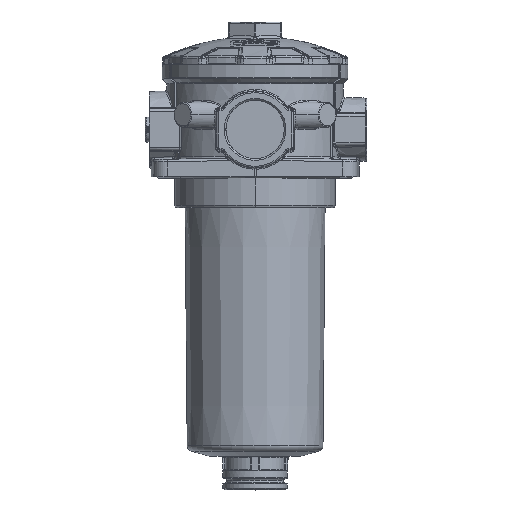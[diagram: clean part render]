
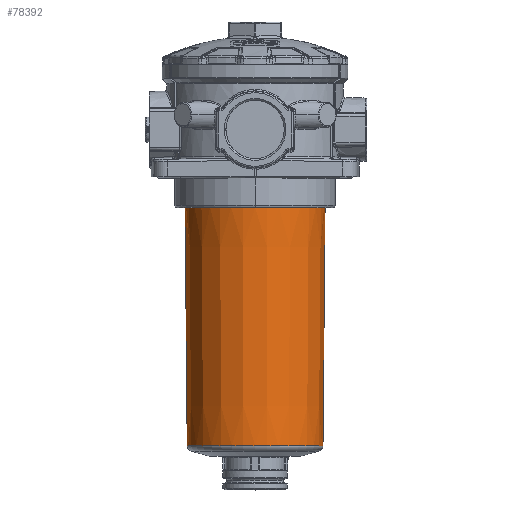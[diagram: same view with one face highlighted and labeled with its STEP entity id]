
A CAD part, top view. The second image highlights one B-rep face of the part: STEP entity #78392.
In plain terms, the highlighted conical face has half-angle 0.5 degrees and reference radius 46.891 mm.
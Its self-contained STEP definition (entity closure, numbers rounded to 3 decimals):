
#19776=CARTESIAN_POINT('',(0.,-97.2,0.));
#19777=DIRECTION('',(0.,-1.,0.));
#19778=DIRECTION('',(1.,0.,0.));
#19779=AXIS2_PLACEMENT_3D('',#19776,#19777,#19778);
#19784=DIRECTION('',(0.009,-1.,0.));
#19785=VECTOR('',#19784,161.979);
#19786=CARTESIAN_POINT('',(-47.598,-97.2,0.));
#19787=LINE('',#19786,#19785);
#19791=DIRECTION('',(-0.009,-1.,0.));
#19792=VECTOR('',#19791,161.979);
#19793=CARTESIAN_POINT('',(47.598,-97.2,0.));
#19794=LINE('',#19793,#19792);
#19798=CARTESIAN_POINT('',(0.,-259.172,
0.));
#19799=DIRECTION('',(0.,1.,0.));
#19800=DIRECTION('',(-1.,0.,0.));
#19801=AXIS2_PLACEMENT_3D('',#19798,#19799,#19800);
#44410=CARTESIAN_POINT('',(-47.598,-97.2,0.));
#44411=CARTESIAN_POINT('',(47.598,-97.2,0.));
#44412=VERTEX_POINT('',#44410);
#44413=VERTEX_POINT('',#44411);
#44414=CARTESIAN_POINT('',(-46.184,-259.172,
0.005));
#44415=VERTEX_POINT('',#44414);
#44416=CARTESIAN_POINT('',(46.184,-259.172,
0.));
#44417=VERTEX_POINT('',#44416);
#78380=CARTESIAN_POINT('',(0.,-178.186,0.));
#78381=DIRECTION('',(0.,1.,0.));
#78382=DIRECTION('',(1.,0.,0.));
#78383=AXIS2_PLACEMENT_3D('',#78380,#78381,#78382);
#78384=CONICAL_SURFACE('',#78383,46.891,0.5);
#78385=ORIENTED_EDGE('',*,*,#78346,.F.);
#78386=ORIENTED_EDGE('',*,*,#78368,.T.);
#78388=ORIENTED_EDGE('',*,*,#78387,.F.);
#78389=ORIENTED_EDGE('',*,*,#78364,.F.);
#78390=EDGE_LOOP('',(#78385,#78386,#78388,#78389));
#78391=FACE_OUTER_BOUND('',#78390,.F.);
#19780=CIRCLE('',#19779,47.598);
#19802=CIRCLE('',#19801,46.184);
#78346=EDGE_CURVE('',#44413,#44412,#19780,.T.);
#78364=EDGE_CURVE('',#44412,#44415,#19787,.T.);
#78368=EDGE_CURVE('',#44413,#44417,#19794,.T.);
#78387=EDGE_CURVE('',#44415,#44417,#19802,.T.);
#78392=ADVANCED_FACE('',(#78391),#78384,.T.);
